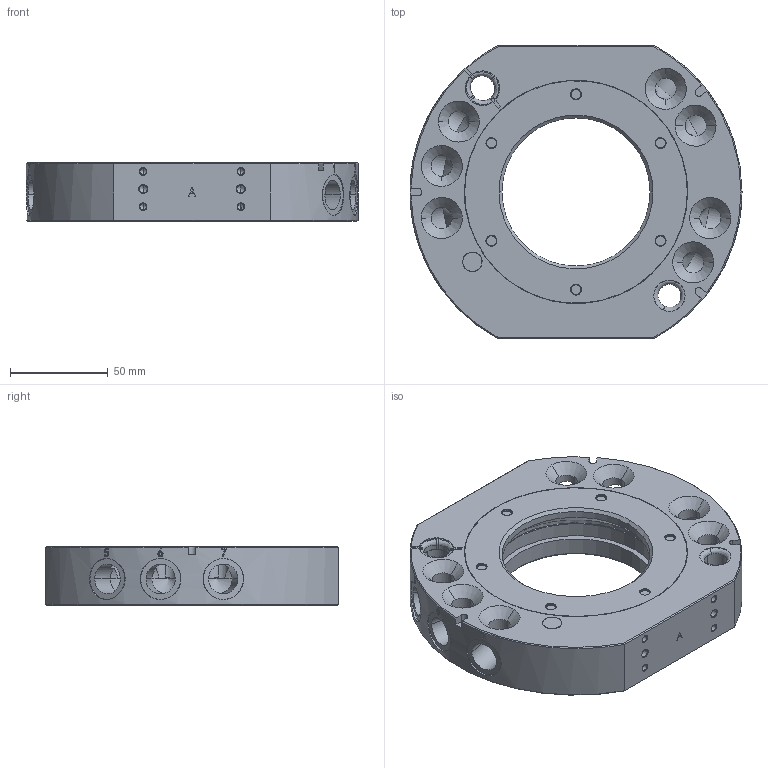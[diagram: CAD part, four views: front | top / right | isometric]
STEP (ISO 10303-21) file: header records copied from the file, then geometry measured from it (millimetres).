
FILE_DESCRIPTION (( 'STEP AP203' ), '1' );
FILE_NAME ('QCA-100G.STEP', '2024-03-19T09:31:15', ( '微软用户' ), ( '微软中国' ), 'SwSTEP 2.0', 'SolidWorks 2018', '' );
FILE_SCHEMA (( 'CONFIG_CONTROL_DESIGN' ));
Length unit declared in the file: millimetre
Products named in the file (1): QCA-100G
Bounding box: 170 x 150 x 30 mm (x, y, z)
Volume: 433327.2 mm3; surface area: 80251.3 mm2
Topology: 1 solids, 19 shells, 1258 faces, 2906 edges, 1675 vertices
Faces by surface type: cone 560, cylinder 370, plane 273, bspline 55
Entity records: 50296 total; most frequent: CARTESIAN_POINT 22581, DIRECTION 5798, ORIENTED_EDGE 5664, EDGE_CURVE 2832, AXIS2_PLACEMENT_3D 2217, VERTEX_POINT 1675, EDGE_LOOP 1375, LINE 1364
